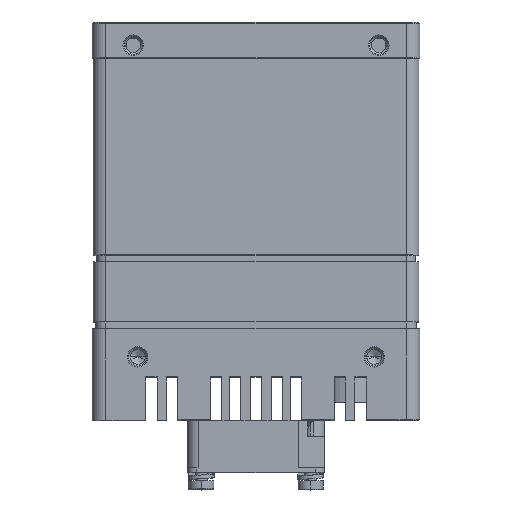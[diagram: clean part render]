
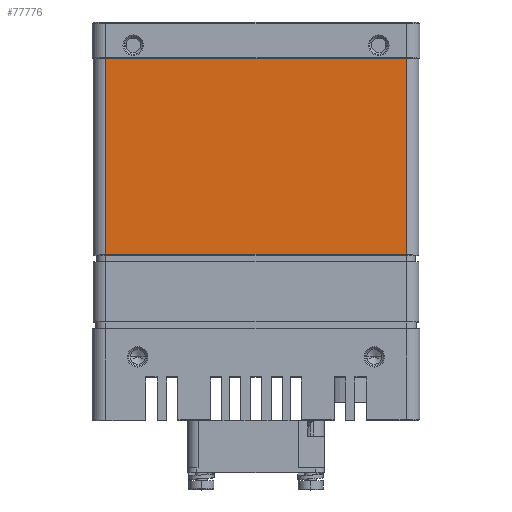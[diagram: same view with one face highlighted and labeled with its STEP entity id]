
A CAD part, top view. The second image highlights one B-rep face of the part: STEP entity #77776.
In plain terms, the highlighted planar face has unit normal (0, 0, 1).
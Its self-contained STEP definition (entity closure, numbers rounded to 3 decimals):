
#22850=DIRECTION('',(1.,0.,0.));
#22851=VECTOR('',#22850,66.);
#22852=CARTESIAN_POINT('',(-33.,-55.1,35.8));
#22853=LINE('',#22852,#22851);
#23759=DIRECTION('',(0.,-1.,0.));
#23760=VECTOR('',#23759,43.1);
#23761=CARTESIAN_POINT('',(-33.,-12.,35.8));
#23762=LINE('',#23761,#23760);
#24737=DIRECTION('',(0.,1.,0.));
#24738=VECTOR('',#24737,43.1);
#24739=CARTESIAN_POINT('',(33.,-55.1,35.8));
#24740=LINE('',#24739,#24738);
#24767=DIRECTION('',(-1.,0.,0.));
#24768=VECTOR('',#24767,66.);
#24769=CARTESIAN_POINT('',(33.,-12.,35.8));
#24770=LINE('',#24769,#24768);
#49854=CARTESIAN_POINT('',(-33.,-55.1,35.8));
#49855=VERTEX_POINT('',#49854);
#49856=CARTESIAN_POINT('',(33.,-55.1,35.8));
#49857=VERTEX_POINT('',#49856);
#50014=CARTESIAN_POINT('',(-33.,-12.,35.8));
#50015=VERTEX_POINT('',#50014);
#50016=CARTESIAN_POINT('',(33.,-12.,35.8));
#50017=VERTEX_POINT('',#50016);
#77765=CARTESIAN_POINT('',(33.,-10.,35.8));
#77766=DIRECTION('',(0.,0.,-1.));
#77767=DIRECTION('',(-1.,0.,0.));
#77768=AXIS2_PLACEMENT_3D('',#77765,#77766,#77767);
#77769=PLANE('',#77768);
#77770=ORIENTED_EDGE('',*,*,#77756,.F.);
#77771=ORIENTED_EDGE('',*,*,#77731,.F.);
#77772=ORIENTED_EDGE('',*,*,#76197,.F.);
#77773=ORIENTED_EDGE('',*,*,#76916,.F.);
#77774=EDGE_LOOP('',(#77770,#77771,#77772,#77773));
#77775=FACE_OUTER_BOUND('',#77774,.F.);
#77776=ADVANCED_FACE('',(#77775),#77769,.F.);
#76197=EDGE_CURVE('',#49855,#49857,#22853,.T.);
#76916=EDGE_CURVE('',#50015,#49855,#23762,.T.);
#77731=EDGE_CURVE('',#49857,#50017,#24740,.T.);
#77756=EDGE_CURVE('',#50017,#50015,#24770,.T.);
